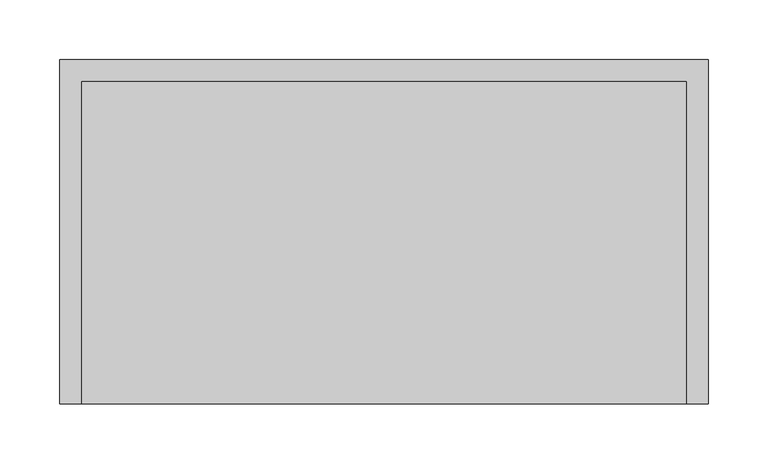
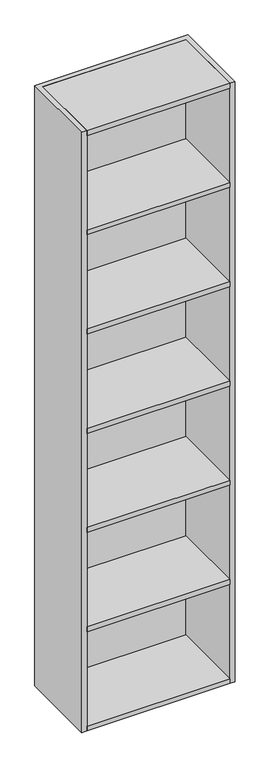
"""IFC4 building model written with IfcOpenShell, lengths in millimetres: furniture geometry, C19 Estanteria : C19 Estanteria 54x18x240."""

from ifc_helpers import new_model, si_unit, frame, origin, origin_with_axes, place, context, project, spatial, polyline, outline, extrude, source, transform, mapped, element, save


def furniture_8692d969(model_context):
    return source(origin(), model_context, "Body", "SweptSolid", [
        extrude(outline(polyline([(297.0003264, -287.0), (-207.5996736, -287.0), (-207.5996736, -18.0), (297.0003264, -18.0), (297.0003264, -287.0)])), origin_with_axes(), (0.0, 0.0, 1.0), 18.0),
        extrude(outline(polyline([(297.0003264, -287.0), (-207.5996736, -287.0), (-207.5996736, -18.0), (297.0003264, -18.0), (297.0003264, -287.0)])), frame((0.0, 0.0, 369.6666667), z_axis=(0.0, 0.0, 1.0), x_axis=(1.0, 0.0, 0.0)), (0.0, 0.0, 1.0), 18.0),
        extrude(outline(polyline([(297.0003264, -287.0), (-207.5996736, -287.0), (-207.5996736, -18.0), (297.0003264, -18.0), (297.0003264, -287.0)])), frame((0.0, 0.0, 739.3333333), z_axis=(0.0, 0.0, 1.0), x_axis=(1.0, 0.0, 0.0)), (0.0, 0.0, 1.0), 18.0),
        extrude(outline(polyline([(297.0003264, -287.0), (-207.5996736, -287.0), (-207.5996736, -18.0), (297.0003264, -18.0), (297.0003264, -287.0)])), frame((0.0, 0.0, 2218.0), z_axis=(0.0, 0.0, 1.0), x_axis=(1.0, 0.0, 0.0)), (0.0, 0.0, 1.0), 18.0),
        extrude(outline(polyline([(297.0003264, -287.0), (-207.5996736, -287.0), (-207.5996736, -18.0), (297.0003264, -18.0), (297.0003264, -287.0)])), frame((0.0, 0.0, 1109.0), z_axis=(0.0, 0.0, 1.0), x_axis=(1.0, 0.0, 0.0)), (0.0, 0.0, 1.0), 18.0),
        extrude(outline(polyline([(297.0003264, -287.0), (-207.5996736, -287.0), (-207.5996736, -18.0), (297.0003264, -18.0), (297.0003264, -287.0)])), frame((0.0, 0.0, 1478.6666667), z_axis=(0.0, 0.0, 1.0), x_axis=(1.0, 0.0, 0.0)), (0.0, 0.0, 1.0), 18.0),
        extrude(outline(polyline([(297.0003264, -287.0), (-207.5996736, -287.0), (-207.5996736, -18.0), (297.0003264, -18.0), (297.0003264, -287.0)])), frame((0.0, 0.0, 1848.3333333), z_axis=(0.0, 0.0, 1.0), x_axis=(1.0, 0.0, 0.0)), (0.0, 0.0, 1.0), 18.0),
        extrude(outline(polyline([(-225.5996736, 0.0), (315.0003264, 0.0), (315.0003264, -287.0), (297.0003264, -287.0), (297.0003264, -18.0), (-207.5996736, -18.0), (-207.5996736, -287.0), (-225.5996736, -287.0), (-225.5996736, 0.0)])), origin_with_axes(), (0.0, 0.0, 1.0), 2236.0),
    ])


if __name__ == "__main__":
    model = new_model("IFC4")
    model_context = context("Model", 3, world=origin())
    ifc_project = project(units=[si_unit("LENGTHUNIT", "METRE", prefix="MILLI")], contexts=[model_context])
    site = spatial("IfcSite", under=ifc_project)
    building = spatial("IfcBuilding", under=site)
    placement = place(None, origin())
    furniture_shape = furniture_8692d969(model_context)
    element("IfcFurniture", 1, ObjectType="C19 Estanteria : C19 Estanteria 54x18x240", at=placement, inside=building, context=model_context, shape_type="MappedRepresentation", body=[
        mapped(furniture_shape, transform((0.0, 0.0, 0.0), x_axis=(1.0, 0.0, 0.0), y_axis=(0.0, 1.0, 0.0), z_axis=(0.0, 0.0, 1.0))),
    ])
    save(model, "model.ifc")
